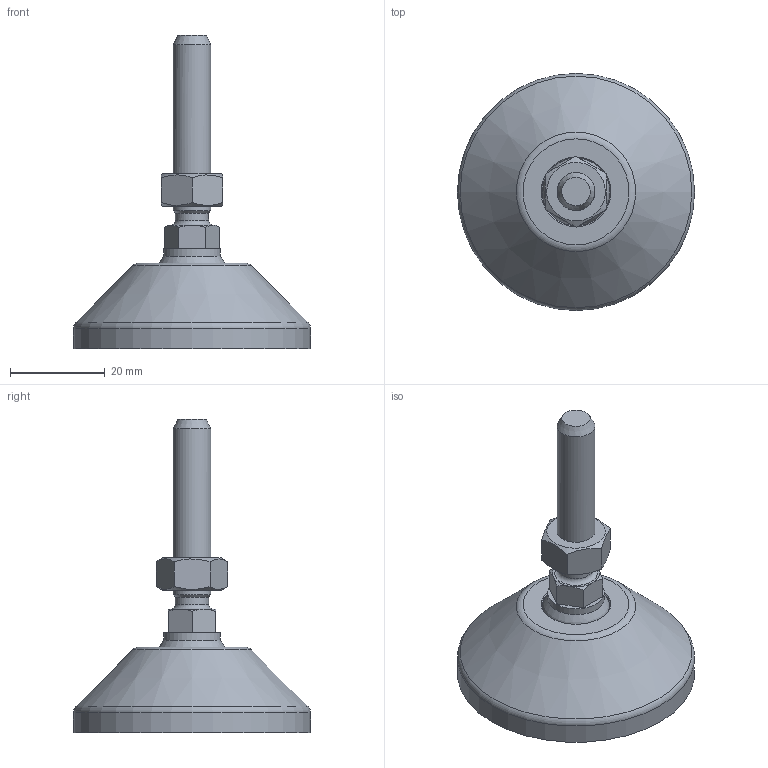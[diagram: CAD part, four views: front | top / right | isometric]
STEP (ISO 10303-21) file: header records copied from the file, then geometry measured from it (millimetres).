
FILE_DESCRIPTION(('STEP AP203'), '1');
FILE_NAME('栖闉罻', '', ('UNSPECIFIED'), ('UNSPECIFIED'), 'C3D Converter', 'C3D Toolkit', '');
FILE_SCHEMA(('CONFIG_CONTROL_DESIGN'));
Length unit declared in the file: millimetre
Products named in the file (4): A00015.1050; A00020.108040
Assembly tree (3 placements, depth 3):
  (unnamed)
    A00015.1050
    A00020.108040
      (unnamed)
Bounding box: 50 x 50 x 66 mm (x, y, z)
Volume: 20186 mm3; surface area: 9938.4 mm2
Topology: 2 solids, 2 shells, 180 faces, 496 edges, 334 vertices
Faces by surface type: plane 86, cylinder 50, torus 30, cone 12, sphere 2
Full cylindrical faces by diameter (mm): 4 x8, 7 x1, 8 x2, 12 x1, 14.3 x1, 15 x2, 15.5 x1, 39 x1, 50 x1
Entity records: 9501 total; most frequent: CARTESIAN_POINT 3369, DIRECTION 950, ORIENTED_EDGE 926, EDGE_CURVE 463, AXIS2_PLACEMENT_3D 394, VERTEX_POINT 333, EDGE_LOOP 226, CIRCLE 210
